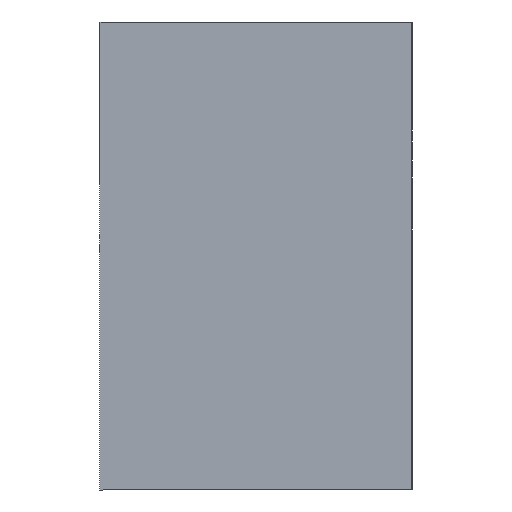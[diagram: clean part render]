
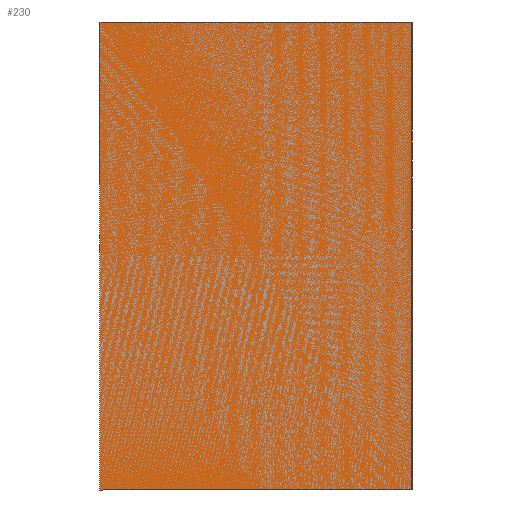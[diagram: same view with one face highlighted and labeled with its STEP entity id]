
A CAD part, front view. The second image highlights one B-rep face of the part: STEP entity #230.
In plain terms, the highlighted planar face has unit normal (0, -1, 0).
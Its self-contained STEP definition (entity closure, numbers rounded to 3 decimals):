
#44 = VERTEX_POINT('',#45);
#45 = CARTESIAN_POINT('',(-15.,-36.,45.));
#87 = VERTEX_POINT('',#88);
#88 = CARTESIAN_POINT('',(-15.,-36.,0.));
#94 = EDGE_CURVE('',#87,#44,#95,.T.);
#95 = LINE('',#96,#97);
#96 = CARTESIAN_POINT('',(-15.,-36.,0.));
#97 = VECTOR('',#98,1.);
#98 = DIRECTION('',(0.,0.,1.));
#108 = EDGE_CURVE('',#109,#111,#113,.T.);
#109 = VERTEX_POINT('',#110);
#110 = CARTESIAN_POINT('',(15.,-36.,45.
    ));
#111 = VERTEX_POINT('',#112);
#112 = CARTESIAN_POINT('',(15.,-36.,
    0.));
#113 = LINE('',#114,#115);
#114 = CARTESIAN_POINT('',(15.,-36.,45.
    ));
#115 = VECTOR('',#116,1.);
#116 = DIRECTION('',(0.,0.,-1.));
#174 = EDGE_CURVE('',#44,#109,#175,.T.);
#175 = LINE('',#176,#177);
#176 = CARTESIAN_POINT('',(-15.,-36.,45.));
#177 = VECTOR('',#178,1.);
#178 = DIRECTION('',(1.,0.,0.));
#220 = EDGE_CURVE('',#111,#87,#221,.T.);
#221 = LINE('',#222,#223);
#222 = CARTESIAN_POINT('',(-15.,-36.,0.));
#223 = VECTOR('',#224,1.);
#224 = DIRECTION('',(-1.,0.,0.));
#230 = ADVANCED_FACE('',(#231),#237,.T.);
#231 = FACE_BOUND('',#232,.T.);
#232 = EDGE_LOOP('',(#233,#234,#235,#236));
#233 = ORIENTED_EDGE('',*,*,#94,.F.);
#234 = ORIENTED_EDGE('',*,*,#220,.F.);
#235 = ORIENTED_EDGE('',*,*,#108,.F.);
#236 = ORIENTED_EDGE('',*,*,#174,.F.);
#237 = PLANE('',#238);
#238 = AXIS2_PLACEMENT_3D('',#239,#240,#241);
#239 = CARTESIAN_POINT('',(-15.,-36.,0.));
#240 = DIRECTION('',(0.,-1.,0.));
#241 = DIRECTION('',(1.,0.,0.));
